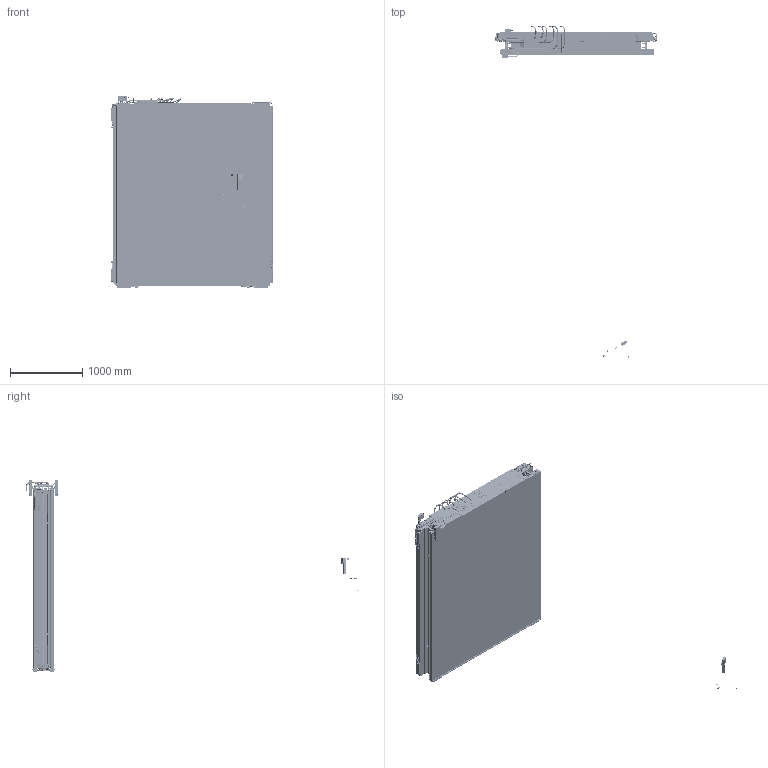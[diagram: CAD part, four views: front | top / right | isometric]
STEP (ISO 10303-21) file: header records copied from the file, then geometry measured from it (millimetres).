
FILE_DESCRIPTION(/* description */ (''),/* implementation_level */ '2;1');
FILE_NAME(/* name */ 'A_030930_mb1_2_1_4_th_phi_L_carters.stp',/* time_stamp */ '2017-05-18T17:32:23+02:00',/* author */ (''),/* organization */ (''),/* preprocessor_version */ 'ST-DEVELOPER v16',/* originating_system */ 'SIEMENS PLM Software NX 10.0',/* authorisation */ '');
FILE_SCHEMA (('AUTOMOTIVE_DESIGN { 1 0 10303 214 3 1 1 1 }'));
Products named in the file (199): hv_grnd_pin; busbar_pin; rivetto_4; spina_5x26; elicoil; rivetto_svas_m10; molla_new2; power_supply_model; connett_fe_littl; tappo1_4; connett_test_p; mb45_phi_lam_vars; mb3c_phi_lam_vars; mb3_phi_lam_vars; mb2c_th_lam_vars; mb2c_phi_lam_vars; mb2_th_lam_vars; mb2_phi_lam_vars; mb3c_th_lam_vars; mb45c_phi_lam_vars; mb3_th_lam_vars; mb48_phi_lam_vars; mb1_phi_lam_vars; mb1_th_lam_vars; mb49_phi_lam_vars; mb1c_phi_lam_vars; mb1c_th_lam_vars; cover_new2; axis; tappo1_8; colon_front_000308; block_sh12_000301; mb1_q1_wire_2d_n2; crocicchio; txt_2_lung; BLK1307; BLK1306; BLK1305; BLK1304; BLK1303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
Assembly tree (658 placements, depth 9):
  030930_mb1_2_1_4_th_phi_L_carters
    mb1_2_1_4_ass
      mb1_2_1_4_ch
        mb1_phi_superlay  x2
          mb1_q1_ass_lamiere
            mb1_q1_b1
            mb1_q1_b1_up
            cms_mb_02_018  x4
          mb1_q1_ass_beams1_8
            mb1_q1_wire_2d_ass_n2
              crocicchio
              mb1_q1_wire_2d_n2  x196
          mb1_q1_ass_lateral
            as_angle  x2
              block_sh12_000301
              colon_front_000308
            cms_mb_02_014
          vite_m4
          mb1_q1_cover_hv_ass
            cms_mb_02_026
            cms_mb_02_021
              tappo1_8  x2
              axis  x28
            as_hv_conn_cover  x2
              cover_new2
          vars
            mb1c_th_vars
              mb1c_th_lam_vars
            mb1c_phi_vars
              mb1c_phi_lam_vars
            mb49_phi_vars
              mb49_phi_lam_vars
            mb1_th_vars
              mb1_th_lam_vars
            mb1_phi_vars
              mb1_phi_lam_vars
            mb48_phi_vars
              mb48_phi_lam_vars
            mb3_th_vars
              mb3_th_lam_vars
            mb45c_phi_vars
              mb45c_phi_lam_vars
            mb3c_th_vars
              mb3c_th_lam_vars
            mb2_phi_vars
              mb2_phi_lam_vars
            mb2_th_vars
              mb2_th_lam_vars
            mb2c_phi_vars
              mb2c_phi_lam_vars
            mb2c_th_vars
              mb2c_th_lam_vars
            mb3_phi_vars
              mb3_phi_lam_vars
            mb3c_phi_vars
              mb3c_phi_lam_vars
            mb45_phi_vars
              mb45_phi_lam_vars
          2109_ass
            2109_cms_mb_02_041
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Bounding box: 2232.82 x 4588.73 x 2646.12 mm (x, y, z)
Volume: 650426414.3 mm3; surface area: 124275547.1 mm2
Topology: 336 solids, 761 shells, 16092 faces, 52824 edges, 45472 vertices
Faces by surface type: plane 9486, cylinder 5014, cone 1118, torus 266, bspline 157, sphere 51
Full cylindrical faces by diameter (mm): 1 x191, 1.675 x12, 2.459 x3, 2.594 x54, 3 x78, 3.2 x12, 3.25 x6, 3.3 x36, 3.432 x439, 3.5 x57, 3.778 x7, 4 x39, 4.5 x1, 4.8 x32, 5 x91, 5.188 x40, 5.5 x278, 6 x42, 6.4 x32, 6.5 x19, 7 x3, 7.188 x4, 7.5 x72, 8 x66, 8.6 x6, 8.782 x28, 8.8 x30, 8.933 x24, 8.985 x24, 9.391 x48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
Entity records: 331746 total; most frequent: CARTESIAN_POINT 95446, ORIENTED_EDGE 39797, DIRECTION 39224, EDGE_CURVE 20405, AXIS2_PLACEMENT_3D 14363, VERTEX_POINT 13196, EDGE_LOOP 11414, LINE 10498
